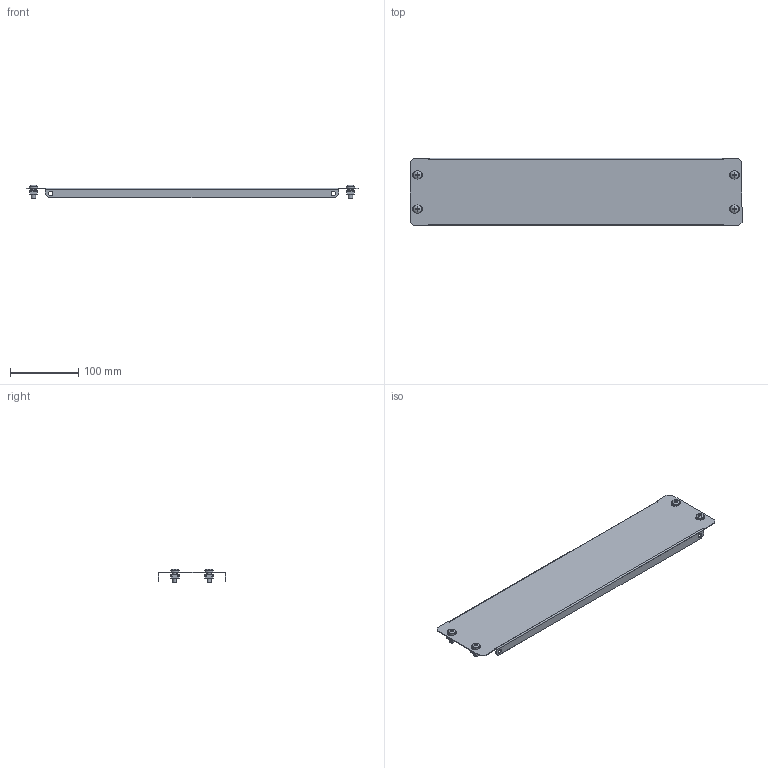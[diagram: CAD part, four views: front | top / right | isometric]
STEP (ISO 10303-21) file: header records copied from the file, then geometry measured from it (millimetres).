
FILE_DESCRIPTION (( 'STEP AP203' ), '1' );
FILE_NAME ('MA1.400.060000.01.00 Ïëàñòðîí Â100 Ø600 EKF AleSta-FP10M600.STEP', '2024-12-02T12:47:32', ( '' ), ( '' ), 'SwSTEP 2.0', 'SolidWorks 2021', '' );
FILE_SCHEMA (( 'CONFIG_CONTROL_DESIGN' ));
Length unit declared in the file: millimetre
Products named in the file (7): pan head cross recess screw_din_DIN EN ISO 7045 - M6 x 16 - Z - 16N; pan head cross recess screw_din; Îáîëî÷êà ãàéêè çàêëàäíîé; Ãàéêà çàêëàäêàÿ Ì6; Ãàéêà çàêëàäíàÿ; MA1.400.060000.01.01 Ïëàñòðîí Â50 Ø600 EKF AleSta_Copy of ˜=600; MA1.400.060000.01.00 Ïëàñòðîí Â100 Ø600 EKF AleSta-FP10M600
Assembly tree (11 placements, depth 3):
  MA1.400.060000.01.00 Ïëàñòðîí Â100 Ø600 EKF AleSta-FP10M600
    MA1.400.060000.01.01 Ïëàñòðîí Â50 Ø600 EKF AleSta_Copy of ˜=600
    Ãàéêà çàêëàäíàÿ  x4
      Îáîëî÷êà ãàéêè çàêëàäíîé
      Ãàéêà çàêëàäêàÿ Ì6
    pan head cross recess screw_din_DIN EN ISO 7045 - M6 x 16 - Z - 16N  x3
    pan head cross recess screw_din
Bounding box: 486 x 99 x 20.48 mm (x, y, z)
Volume: 63469.7 mm3; surface area: 125176.5 mm2
Topology: 13 solids, 13 shells, 690 faces, 1534 edges, 874 vertices
Faces by surface type: plane 442, cylinder 144, bspline 64, cone 28, torus 8, sphere 4
Full cylindrical faces by diameter (mm): 6 x8, 6.5 x4, 7 x4, 12 x4
Entity records: 8241 total; most frequent: CARTESIAN_POINT 1817, DIRECTION 1146, ORIENTED_EDGE 1116, EDGE_CURVE 558, AXIS2_PLACEMENT_3D 387, LINE 372, VECTOR 372, VERTEX_POINT 338
